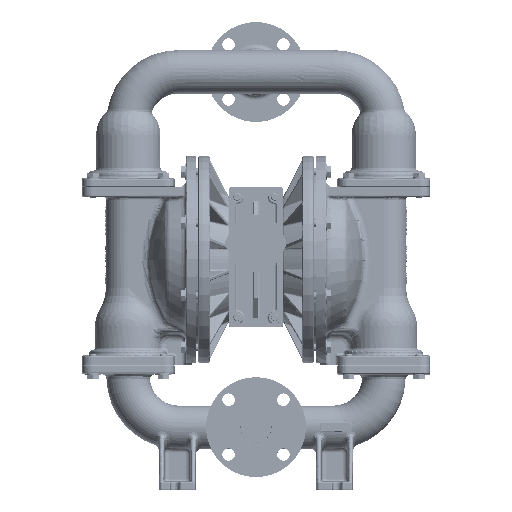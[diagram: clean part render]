
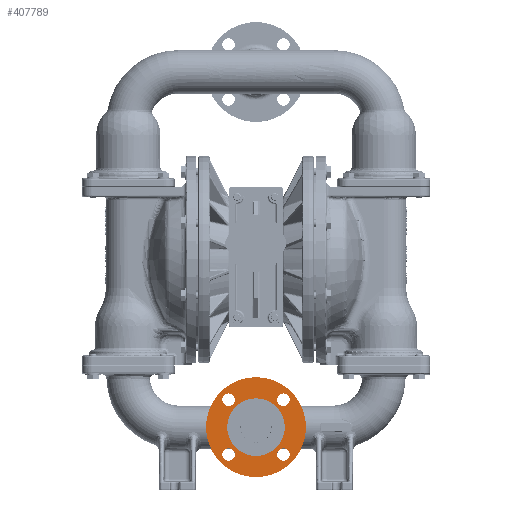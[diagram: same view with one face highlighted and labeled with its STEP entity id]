
A CAD part, top view. The second image highlights one B-rep face of the part: STEP entity #407789.
In plain terms, the highlighted planar face has unit normal (0, 0, 1).
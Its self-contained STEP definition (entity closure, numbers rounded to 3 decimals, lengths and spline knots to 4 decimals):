
#2146 = PLANE ( 'NONE',  #394775 ) ;
#5566 = VERTEX_POINT ( 'NONE', #504763 ) ;
#7563 = ORIENTED_EDGE ( 'NONE', *, *, #14917, .T. ) ;
#10539 = DIRECTION ( 'NONE',  ( 0., 0., -1. ) ) ;
#14917 = EDGE_CURVE ( 'NONE', #176724, #171732, #173753, .T. ) ;
#17315 = EDGE_CURVE ( 'NONE', #383057, #5566, #388704, .T. ) ;
#17972 = EDGE_LOOP ( 'NONE', ( #409600, #511231 ) ) ;
#21922 = EDGE_LOOP ( 'NONE', ( #511364, #316703 ) ) ;
#26663 = DIRECTION ( 'NONE',  ( 1., 0., 0. ) ) ;
#28625 = CIRCLE ( 'NONE', #142313, 0.3125 ) ;
#33040 = CIRCLE ( 'NONE', #216348, 1.44 ) ;
#36880 = DIRECTION ( 'NONE',  ( 1., 0., 0. ) ) ;
#39962 = CARTESIAN_POINT ( 'NONE',  ( 0., -8.385, 4.74 ) ) ;
#42294 = DIRECTION ( 'NONE',  ( 0., 0., -1. ) ) ;
#56240 = EDGE_CURVE ( 'NONE', #477899, #362316, #187682, .T. ) ;
#58260 = VERTEX_POINT ( 'NONE', #255333 ) ;
#64437 = CARTESIAN_POINT ( 'NONE',  ( 1.37, -9.755, 4.74 ) ) ;
#64887 = CIRCLE ( 'NONE', #353456, 2.5 ) ;
#66992 = ORIENTED_EDGE ( 'NONE', *, *, #307835, .T. ) ;
#75152 = AXIS2_PLACEMENT_3D ( 'NONE', #139611, #183337, #95831 ) ;
#76167 = AXIS2_PLACEMENT_3D ( 'NONE', #64437, #283154, #395487 ) ;
#81633 = EDGE_LOOP ( 'NONE', ( #339095, #7563 ) ) ;
#83169 = DIRECTION ( 'NONE',  ( 1., 0., 0. ) ) ;
#93455 = CARTESIAN_POINT ( 'NONE',  ( -1.37, -9.755, 4.74 ) ) ;
#95831 = DIRECTION ( 'NONE',  ( 0., 1., 0. ) ) ;
#96370 = VERTEX_POINT ( 'NONE', #294124 ) ;
#102375 = DIRECTION ( 'NONE',  ( 0., 1., 0. ) ) ;
#103639 = AXIS2_PLACEMENT_3D ( 'NONE', #39962, #206899, #204186 ) ;
#104101 = DIRECTION ( 'NONE',  ( 1., 0., 0. ) ) ;
#107365 = CARTESIAN_POINT ( 'NONE',  ( -1.0575, -9.755, 4.74 ) ) ;
#108498 = EDGE_CURVE ( 'NONE', #363598, #248200, #400473, .T. ) ;
#128265 = CARTESIAN_POINT ( 'NONE',  ( 0., -8.385, 4.74 ) ) ;
#138086 = DIRECTION ( 'NONE',  ( 0., 0., 1. ) ) ;
#139611 = CARTESIAN_POINT ( 'NONE',  ( 0., -8.385, 4.74 ) ) ;
#142313 = AXIS2_PLACEMENT_3D ( 'NONE', #155383, #521959, #316913 ) ;
#143459 = CARTESIAN_POINT ( 'NONE',  ( -1.6825, -9.755, 4.74 ) ) ;
#147569 = AXIS2_PLACEMENT_3D ( 'NONE', #93455, #216696, #421824 ) ;
#148620 = ORIENTED_EDGE ( 'NONE', *, *, #335712, .T. ) ;
#149298 = CARTESIAN_POINT ( 'NONE',  ( 0., -5.885, 4.74 ) ) ;
#155383 = CARTESIAN_POINT ( 'NONE',  ( -1.37, -7.015, 4.74 ) ) ;
#168796 = CIRCLE ( 'NONE', #474535, 0.3125 ) ;
#170675 = DIRECTION ( 'NONE',  ( 0., 0., -1. ) ) ;
#171732 = VERTEX_POINT ( 'NONE', #107365 ) ;
#172096 = EDGE_CURVE ( 'NONE', #362316, #477899, #64887, .T. ) ;
#173753 = CIRCLE ( 'NONE', #147569, 0.3125 ) ;
#176724 = VERTEX_POINT ( 'NONE', #143459 ) ;
#180122 = DIRECTION ( 'NONE',  ( 0., -1., 0. ) ) ;
#183337 = DIRECTION ( 'NONE',  ( 0., 0., -1. ) ) ;
#187493 = ORIENTED_EDGE ( 'NONE', *, *, #230594, .T. ) ;
#187682 = CIRCLE ( 'NONE', #75152, 2.5 ) ;
#200680 = EDGE_CURVE ( 'NONE', #171732, #176724, #504048, .T. ) ;
#204186 = DIRECTION ( 'NONE',  ( 0., 1., 0. ) ) ;
#206899 = DIRECTION ( 'NONE',  ( 0., 0., -1. ) ) ;
#216348 = AXIS2_PLACEMENT_3D ( 'NONE', #430743, #138086, #102375 ) ;
#216696 = DIRECTION ( 'NONE',  ( 0., 0., -1. ) ) ;
#220960 = CARTESIAN_POINT ( 'NONE',  ( 1.0575, -9.755, 4.74 ) ) ;
#229619 = FACE_BOUND ( 'NONE', #511608, .T. ) ;
#230594 = EDGE_CURVE ( 'NONE', #416787, #458709, #168796, .T. ) ;
#240397 = FACE_BOUND ( 'NONE', #264602, .T. ) ;
#248200 = VERTEX_POINT ( 'NONE', #353799 ) ;
#250204 = CARTESIAN_POINT ( 'NONE',  ( 1.37, -7.015, 4.74 ) ) ;
#255333 = CARTESIAN_POINT ( 'NONE',  ( 1.0575, -7.015, 4.74 ) ) ;
#258323 = DIRECTION ( 'NONE',  ( 0., 0., -1. ) ) ;
#264602 = EDGE_LOOP ( 'NONE', ( #292605, #391954 ) ) ;
#283154 = DIRECTION ( 'NONE',  ( 0., 0., -1. ) ) ;
#286782 = FACE_BOUND ( 'NONE', #81633, .T. ) ;
#292169 = CARTESIAN_POINT ( 'NONE',  ( 0., -8.385, 4.74 ) ) ;
#292605 = ORIENTED_EDGE ( 'NONE', *, *, #376640, .F. ) ;
#294124 = CARTESIAN_POINT ( 'NONE',  ( 1.6825, -7.015, 4.74 ) ) ;
#304020 = CARTESIAN_POINT ( 'NONE',  ( 0., -10.885, 4.74 ) ) ;
#307835 = EDGE_CURVE ( 'NONE', #58260, #96370, #426816, .T. ) ;
#316703 = ORIENTED_EDGE ( 'NONE', *, *, #56240, .F. ) ;
#316913 = DIRECTION ( 'NONE',  ( -1., 0., 0. ) ) ;
#320704 = CIRCLE ( 'NONE', #76167, 0.3125 ) ;
#322109 = CARTESIAN_POINT ( 'NONE',  ( -1.37, -7.015, 4.74 ) ) ;
#325992 = EDGE_CURVE ( 'NONE', #5566, #383057, #28625, .T. ) ;
#328351 = CIRCLE ( 'NONE', #494273, 0.3125 ) ;
#335712 = EDGE_CURVE ( 'NONE', #458709, #416787, #320704, .T. ) ;
#338200 = AXIS2_PLACEMENT_3D ( 'NONE', #519846, #478871, #104101 ) ;
#338211 = CARTESIAN_POINT ( 'NONE',  ( 0., -6.945, 4.74 ) ) ;
#339095 = ORIENTED_EDGE ( 'NONE', *, *, #200680, .T. ) ;
#342733 = EDGE_LOOP ( 'NONE', ( #372977, #66992 ) ) ;
#353456 = AXIS2_PLACEMENT_3D ( 'NONE', #128265, #10539, #180122 ) ;
#353799 = CARTESIAN_POINT ( 'NONE',  ( 0., -9.825, 4.74 ) ) ;
#359925 = CARTESIAN_POINT ( 'NONE',  ( 1.6825, -9.755, 4.74 ) ) ;
#361924 = EDGE_CURVE ( 'NONE', #96370, #58260, #328351, .T. ) ;
#362316 = VERTEX_POINT ( 'NONE', #304020 ) ;
#363598 = VERTEX_POINT ( 'NONE', #338211 ) ;
#372977 = ORIENTED_EDGE ( 'NONE', *, *, #361924, .T. ) ;
#374232 = FACE_BOUND ( 'NONE', #17972, .T. ) ;
#376640 = EDGE_CURVE ( 'NONE', #363598, #248200, #33040, .T. ) ;
#376946 = DIRECTION ( 'NONE',  ( 0., 0., -1. ) ) ;
#378609 = CARTESIAN_POINT ( 'NONE',  ( 1.37, -7.015, 4.74 ) ) ;
#383057 = VERTEX_POINT ( 'NONE', #522163 ) ;
#388704 = CIRCLE ( 'NONE', #432428, 0.3125 ) ;
#391954 = ORIENTED_EDGE ( 'NONE', *, *, #108498, .T. ) ;
#394775 = AXIS2_PLACEMENT_3D ( 'NONE', #292169, #376946, #494601 ) ;
#395487 = DIRECTION ( 'NONE',  ( -1., 0., 0. ) ) ;
#400473 = CIRCLE ( 'NONE', #103639, 1.44 ) ;
#400667 = AXIS2_PLACEMENT_3D ( 'NONE', #250204, #258323, #417016 ) ;
#407208 = FACE_BOUND ( 'NONE', #342733, .T. ) ;
#407789 = ADVANCED_FACE ( 'NONE', ( #448266, #240397, #407208, #229619, #286782, #374232 ), #2146, .F. ) ;
#409600 = ORIENTED_EDGE ( 'NONE', *, *, #17315, .T. ) ;
#416787 = VERTEX_POINT ( 'NONE', #359925 ) ;
#417016 = DIRECTION ( 'NONE',  ( -1., 0., 0. ) ) ;
#421824 = DIRECTION ( 'NONE',  ( -1., 0., 0. ) ) ;
#422502 = CARTESIAN_POINT ( 'NONE',  ( 1.37, -9.755, 4.74 ) ) ;
#426816 = CIRCLE ( 'NONE', #400667, 0.3125 ) ;
#430743 = CARTESIAN_POINT ( 'NONE',  ( 0., -8.385, 4.74 ) ) ;
#432428 = AXIS2_PLACEMENT_3D ( 'NONE', #322109, #488906, #26663 ) ;
#448266 = FACE_OUTER_BOUND ( 'NONE', #21922, .T. ) ;
#458709 = VERTEX_POINT ( 'NONE', #220960 ) ;
#474535 = AXIS2_PLACEMENT_3D ( 'NONE', #422502, #42294, #36880 ) ;
#477899 = VERTEX_POINT ( 'NONE', #149298 ) ;
#478871 = DIRECTION ( 'NONE',  ( 0., 0., -1. ) ) ;
#488906 = DIRECTION ( 'NONE',  ( 0., 0., -1. ) ) ;
#494273 = AXIS2_PLACEMENT_3D ( 'NONE', #378609, #170675, #83169 ) ;
#494601 = DIRECTION ( 'NONE',  ( 0., -1., 0. ) ) ;
#504048 = CIRCLE ( 'NONE', #338200, 0.3125 ) ;
#504763 = CARTESIAN_POINT ( 'NONE',  ( -1.6825, -7.015, 4.74 ) ) ;
#511231 = ORIENTED_EDGE ( 'NONE', *, *, #325992, .T. ) ;
#511364 = ORIENTED_EDGE ( 'NONE', *, *, #172096, .F. ) ;
#511608 = EDGE_LOOP ( 'NONE', ( #187493, #148620 ) ) ;
#519846 = CARTESIAN_POINT ( 'NONE',  ( -1.37, -9.755, 4.74 ) ) ;
#521959 = DIRECTION ( 'NONE',  ( 0., 0., -1. ) ) ;
#522163 = CARTESIAN_POINT ( 'NONE',  ( -1.0575, -7.015, 4.74 ) ) ;
